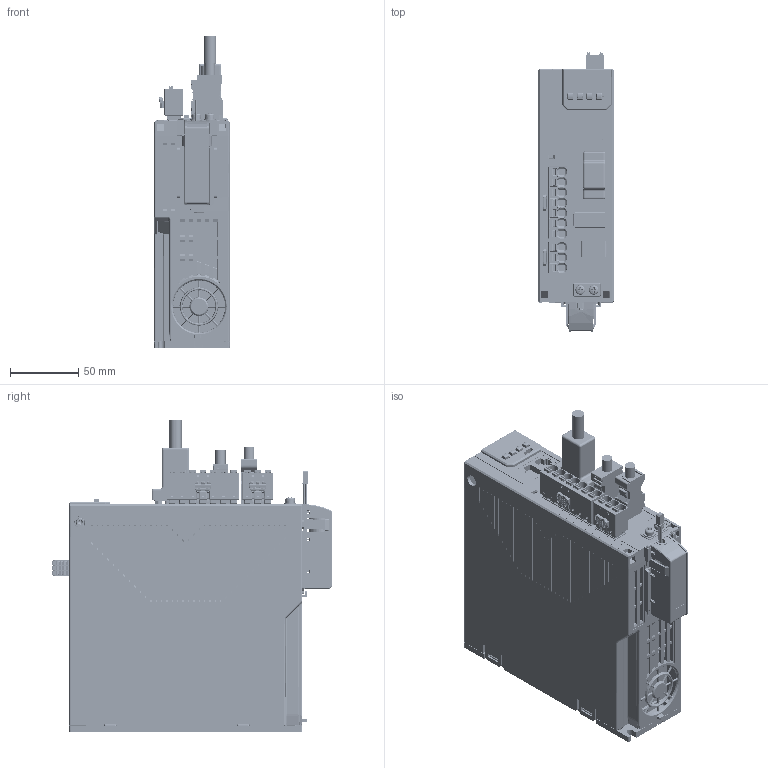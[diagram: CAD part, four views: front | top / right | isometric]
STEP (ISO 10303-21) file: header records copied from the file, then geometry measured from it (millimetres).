
FILE_DESCRIPTION((''),'2;1');
FILE_NAME('SD900-6R0D-EA_ASM','2025-09-28T',('v5489'),(''),'CREO PARAMETRIC BY PTC INC, 2018360','CREO PARAMETRIC BY PTC INC, 2018360','');
FILE_SCHEMA(('AP203_CONFIGURATION_CONTROLLED_3D_DESIGN_OF_MECHANICAL_PARTS_AND_ASSEMBLIES_MIM_LF { 1 0 10303 403 2 1 2 }'));
Products named in the file (19): 00-SD900-6R0D-EA_ASM_1_1; 00-SD900-6R0D-EA_ASM_1_2; 00-SD900-6R0D-EA_ASM_1_ASM; SD900-DCH-P001_284; SD900-DCH-N001_98; 14505_50_1; 14505_50_2; 14505_50_3; 14505_50_ASM; S6-C4A_31; SD900-DCH-P_ASM_535_ASM; SD900-DCH-P_ASM_ASM; 5006540609; 1394SM_10P_; F9AP-7_5-03P-A; F9AP-7_5-07P-A; DB-15-1; 15EDGKNH-3_5-04P-14-00A_H_; SD900-6R0D-EA_ASM
Assembly tree (18 placements, depth 5):
  SD900-6R0D-EA_ASM
    00-SD900-6R0D-EA_ASM_1_ASM
      00-SD900-6R0D-EA_ASM_1_1
      00-SD900-6R0D-EA_ASM_1_2
    SD900-DCH-P_ASM_ASM
      SD900-DCH-P_ASM_535_ASM
        SD900-DCH-P001_284
        SD900-DCH-N001_98
        14505_50_ASM
          14505_50_1
          14505_50_2
          14505_50_3
        S6-C4A_31
    5006540609
    1394SM_10P_
    F9AP-7_5-03P-A
    F9AP-7_5-07P-A
    DB-15-1
    15EDGKNH-3_5-04P-14-00A_H_
Bounding box: 55 x 204 x 227.35 mm (x, y, z)
Volume: 64620.1 mm3; surface area: 281512.4 mm2
Topology: 23 solids, 67 shells, 16994 faces, 45371 edges, 28361 vertices
Faces by surface type: plane 9282, cylinder 4603, bspline 1087, torus 716, cone 623, sphere 399, extrusion 282, revolution 2
Entity records: 675264 total; most frequent: CARTESIAN_POINT 189600, ORIENTED_EDGE 89814, DIRECTION 78178, EDGE_CURVE 44957, VECTOR 29978, LINE 29696, VERTEX_POINT 28357, AXIS2_PLACEMENT_3D 24099
